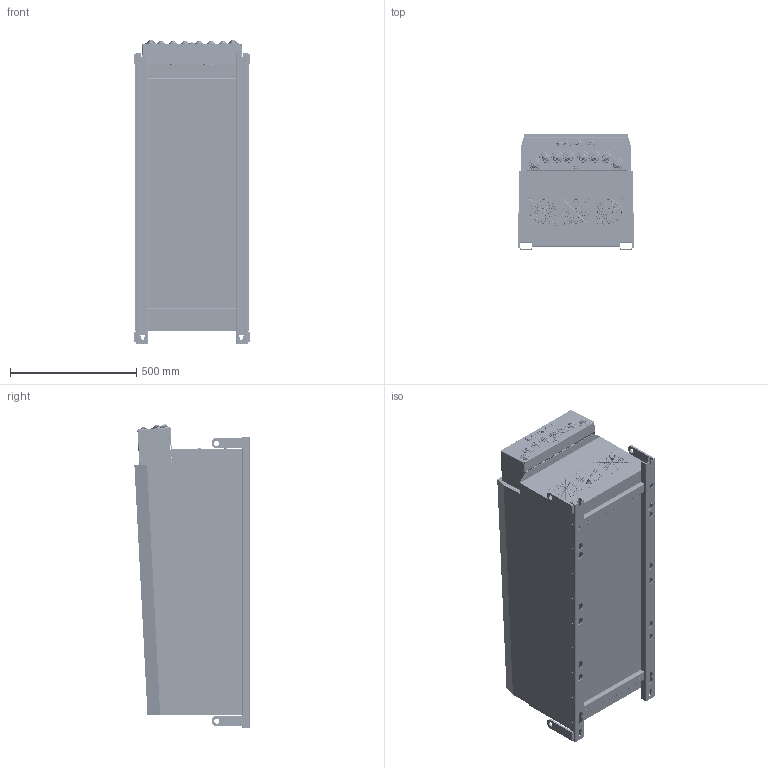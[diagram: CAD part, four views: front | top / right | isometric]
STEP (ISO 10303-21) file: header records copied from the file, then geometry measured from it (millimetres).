
FILE_DESCRIPTION(/* description */ (''),/* implementation_level */ '2;1');
FILE_NAME(/* name */ 'P:\Construction\Filter_Marketing\FN\FN34XX_GLORIA\H\EcosineEVO-H-E2FAJXX.stp',/* time_stamp */ '2017-10-18T10:58:53+02:00',/* author */ ('erika.jenzer'),/* organization */ ('Schaffner EMV AG'),/* preprocessor_version */ 'ST-DEVELOPER v16.5',/* originating_system */ 'Autodesk Inventor 2017',/* authorisation */ '');
FILE_SCHEMA (('AUTOMOTIVE_DESIGN { 1 0 10303 214 3 1 1 }'));
Products named in the file (30): 153731_IAM_000; 153732_IAM_000; 237553; 153736_IAM_000; 202320; 417046; 421181; Fan_fingerguard_126979_IPT_000; 421178; 156519_IAM_000; 237625; 237901; dkb10; DKB10E; 237913; 421182; 237626; 237898; dkb100e-a; 237912; 156882_IAM_000; 237565; 201660; 163172_IPT_000; 421667; 162826_IAM_000; 239345; 201667; 235780; 235873
Assembly tree (68 placements, depth 4):
  153731_IAM_000
    153732_IAM_000
      237553
    153736_IAM_000
      202320  x2
    417046  x2
    421181
      Fan_fingerguard_126979_IPT_000  x3
    421178
      156519_IAM_000
        237625
        201660  x3
      237901  x6
      dkb10  x2
      DKB10E
      237913  x2
    421182
      237626
      237898  x6
      dkb100e-a
      237912  x2
    156882_IAM_000
      237565
      201660  x2
    163172_IPT_000
    421667
      162826_IAM_000
        239345
        201667  x6
      235780  x8
      235873  x7
Bounding box: 462 x 455.74 x 1200.09 mm (x, y, z)
Volume: 185975501 mm3; surface area: 3830042 mm2
Topology: 85 solids, 85 shells, 7160 faces, 18186 edges, 11769 vertices
Faces by surface type: plane 4448, cylinder 1619, torus 494, cone 409, bspline 178, sphere 12
Full cylindrical faces by diameter (mm): 1.5 x16, 2.9 x4, 3.2 x4, 3.7 x4, 4 x34, 4.1 x6, 4.2 x7, 4.3 x6, 5 x16, 5.4 x18, 5.5 x14, 6 x4, 6.206 x5, 6.5 x7, 6.782 x7, 7 x16, 7.132 x12, 7.3 x2, 7.9 x6, 8 x26, 8.376 x2, 8.42 x7, 8.5 x12, 9 x14, 9.188 x2, 9.682 x7, 9.8 x12, 10 x4, 10.5 x2, 10.698 x12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
Entity records: 97505 total; most frequent: CARTESIAN_POINT 23275, ORIENTED_EDGE 14718, DIRECTION 14679, EDGE_CURVE 7359, LINE 5717, VECTOR 5717, VERTEX_POINT 5022, AXIS2_PLACEMENT_3D 4481
